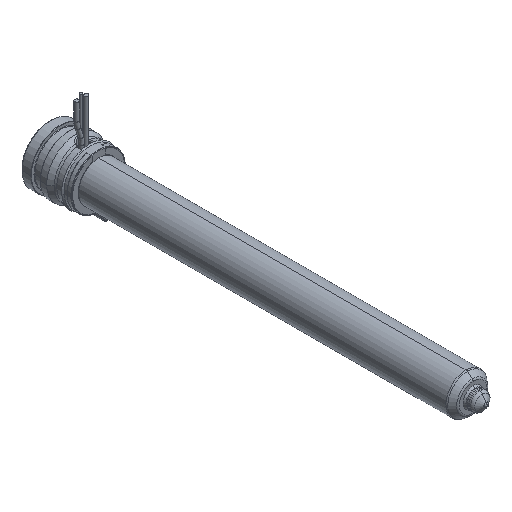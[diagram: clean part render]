
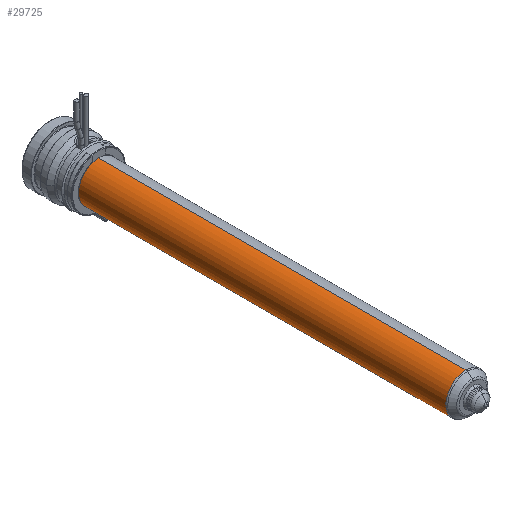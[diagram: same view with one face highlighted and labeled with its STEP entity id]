
A CAD part, isometric view. The second image highlights one B-rep face of the part: STEP entity #29725.
In plain terms, the highlighted cylindrical face has radius 9 mm (diameter 18 mm), a partial arc.
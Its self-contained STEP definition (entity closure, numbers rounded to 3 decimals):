
#29180=CARTESIAN_POINT('',(0.,-185.836,0.));
#29181=DIRECTION('',(0.,-1.,0.));
#29182=DIRECTION('',(0.,0.,1.));
#29183=AXIS2_PLACEMENT_3D('',#29180,#29181,#29182);
#29188=CARTESIAN_POINT('',(0.,-22.,0.));
#29189=DIRECTION('',(0.,-1.,0.));
#29190=DIRECTION('',(0.,0.,1.));
#29191=AXIS2_PLACEMENT_3D('',#29188,#29189,#29190);
#29196=DIRECTION('',(0.,-1.,0.));
#29197=VECTOR('',#29196,163.836);
#29198=CARTESIAN_POINT('',(0.,-22.,9.));
#29199=LINE('',#29198,#29197);
#29211=DIRECTION('',(0.,-1.,0.));
#29212=VECTOR('',#29211,163.836);
#29213=CARTESIAN_POINT('',(0.,-22.,-9.));
#29214=LINE('',#29213,#29212);
#29406=CARTESIAN_POINT('',(0.,-22.,9.));
#29407=CARTESIAN_POINT('',(0.,-185.836,9.));
#29408=VERTEX_POINT('',#29406);
#29409=VERTEX_POINT('',#29407);
#29428=CARTESIAN_POINT('',(0.,-22.,-9.));
#29429=CARTESIAN_POINT('',(0.,-185.836,-9.));
#29430=VERTEX_POINT('',#29428);
#29431=VERTEX_POINT('',#29429);
#29711=CARTESIAN_POINT('',(0.,-9.125,0.));
#29712=DIRECTION('',(0.,-1.,0.));
#29713=DIRECTION('',(0.,0.,1.));
#29714=AXIS2_PLACEMENT_3D('',#29711,#29712,#29713);
#29715=CYLINDRICAL_SURFACE('',#29714,9.);
#29717=ORIENTED_EDGE('',*,*,#29716,.T.);
#29718=ORIENTED_EDGE('',*,*,#29706,.T.);
#29720=ORIENTED_EDGE('',*,*,#29719,.F.);
#29722=ORIENTED_EDGE('',*,*,#29721,.F.);
#29723=EDGE_LOOP('',(#29717,#29718,#29720,#29722));
#29724=FACE_OUTER_BOUND('',#29723,.F.);
#29725=ADVANCED_FACE('',(#29724),#29715,.T.);
#29184=CIRCLE('',#29183,9.);
#29192=CIRCLE('',#29191,9.);
#29706=EDGE_CURVE('',#29409,#29431,#29184,.T.);
#29716=EDGE_CURVE('',#29408,#29409,#29199,.T.);
#29719=EDGE_CURVE('',#29430,#29431,#29214,.T.);
#29721=EDGE_CURVE('',#29408,#29430,#29192,.T.);
